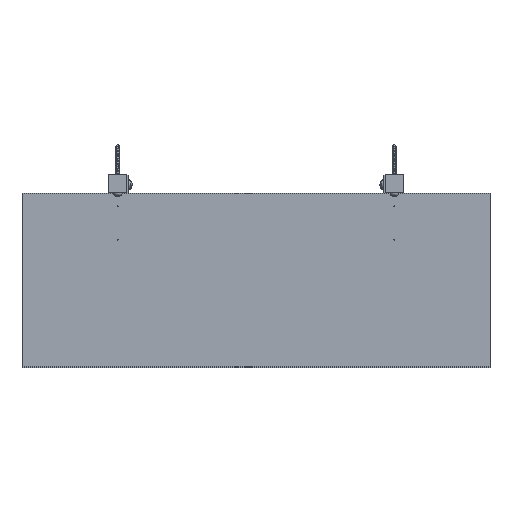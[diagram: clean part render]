
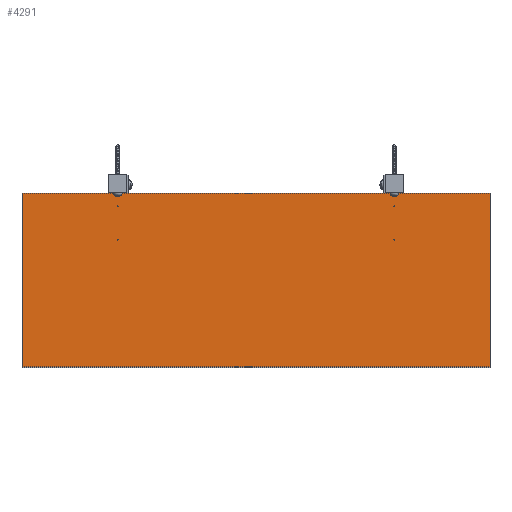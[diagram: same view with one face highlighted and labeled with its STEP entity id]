
A CAD part, top view. The second image highlights one B-rep face of the part: STEP entity #4291.
In plain terms, the highlighted planar face has unit normal (0, 0, 1).
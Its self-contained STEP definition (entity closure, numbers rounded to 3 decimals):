
#4291=ADVANCED_FACE('',(#5035),#14489,.T.);
#5035=FACE_OUTER_BOUND('',#5779,.T.);
#5779=EDGE_LOOP('',(#6586,#6587,#6588,#6589));
#6586=ORIENTED_EDGE('',*,*,#9708,.T.);
#6587=ORIENTED_EDGE('',*,*,#9712,.T.);
#6588=ORIENTED_EDGE('',*,*,#9715,.T.);
#6589=ORIENTED_EDGE('',*,*,#9717,.T.);
#9708=EDGE_CURVE('',#12907,#12906,#11710,.T.);
#9712=EDGE_CURVE('',#12906,#12909,#11714,.T.);
#9715=EDGE_CURVE('',#12909,#12911,#11717,.T.);
#9717=EDGE_CURVE('',#12911,#12907,#11719,.T.);
#11710=B_SPLINE_CURVE_WITH_KNOTS('',1,(#15653,#15654),.UNSPECIFIED.,.F.,
 .F.,(2,2),(0.,200.),.UNSPECIFIED.);
#11714=B_SPLINE_CURVE_WITH_KNOTS('',1,(#15661,#15662),.UNSPECIFIED.,.F.,
 .F.,(2,2),(200.,720.),.UNSPECIFIED.);
#11717=B_SPLINE_CURVE_WITH_KNOTS('',1,(#15667,#15668),.UNSPECIFIED.,.F.,
 .F.,(2,2),(720.,920.),.UNSPECIFIED.);
#11719=B_SPLINE_CURVE_WITH_KNOTS('',1,(#15671,#15672),.UNSPECIFIED.,.F.,
 .F.,(2,2),(920.,1440.),.UNSPECIFIED.);
#12906=VERTEX_POINT('',#15643);
#12907=VERTEX_POINT('',#15644);
#12909=VERTEX_POINT('',#15646);
#12911=VERTEX_POINT('',#15648);
#14489=PLANE('',#14883);
#14883=AXIS2_PLACEMENT_3D('',#15640,#15261,$);
#15261=DIRECTION('',(0.,0.,1.));
#15640=CARTESIAN_POINT('',(16254.906,4797.237,870.546));
#15643=CARTESIAN_POINT('',(16794.906,4997.237,870.546));
#15644=CARTESIAN_POINT('',(16794.906,4797.237,870.546));
#15646=CARTESIAN_POINT('',(16254.906,4997.237,870.546));
#15648=CARTESIAN_POINT('',(16254.906,4797.237,870.546));
#15653=CARTESIAN_POINT('',(16794.906,4797.237,870.546));
#15654=CARTESIAN_POINT('',(16794.906,4997.237,870.546));
#15661=CARTESIAN_POINT('',(16794.906,4997.237,870.546));
#15662=CARTESIAN_POINT('',(16254.906,4997.237,870.546));
#15667=CARTESIAN_POINT('',(16254.906,4997.237,870.546));
#15668=CARTESIAN_POINT('',(16254.906,4797.237,870.546));
#15671=CARTESIAN_POINT('',(16254.906,4797.237,870.546));
#15672=CARTESIAN_POINT('',(16794.906,4797.237,870.546));
